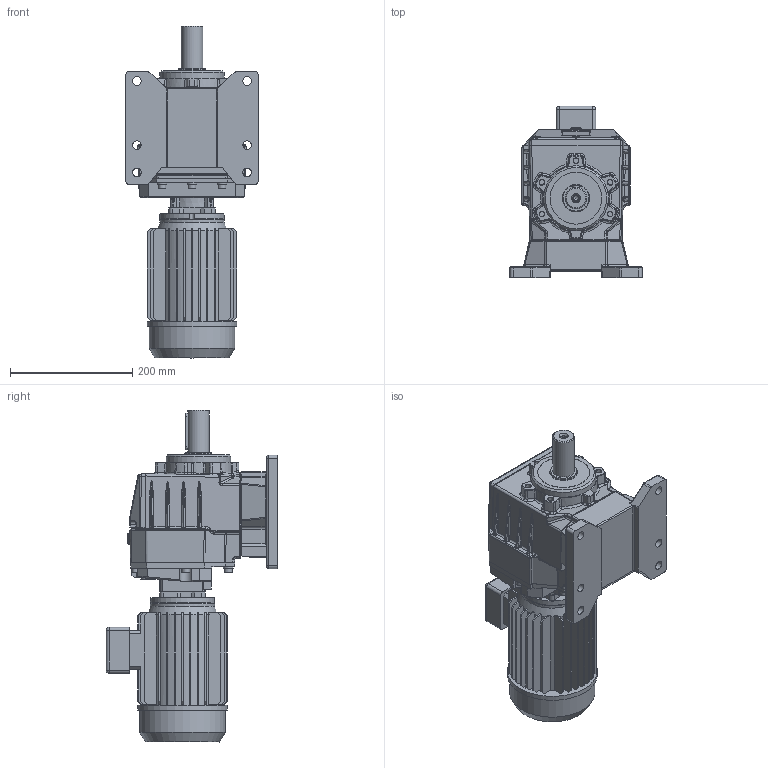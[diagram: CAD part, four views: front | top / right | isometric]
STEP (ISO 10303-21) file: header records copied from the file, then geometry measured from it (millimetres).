
FILE_DESCRIPTION( ( 'Unknown' ), '1' );
FILE_NAME( 'E:/services/configuratordownloads/customers/HYDROMEC/COASSIALI/download/18E92EBE5DDC0736F57D2A8D4DC48E/STEP/18E92EBE5DDC0736F57D2A8D4DC48E.3d.stp', 'Unknown', ( 'Unknown' ), ( 'Unknown' ), 'PSStep 10.1', 'Unknown', ' ' );
FILE_SCHEMA( ( 'AUTOMOTIVE_DESIGN { 1 0 10303 214 1 1 1 1 }' ) );
Length unit declared in the file: millimetre
Products named in the file (1): C618800
Bounding box: 216 x 281.05 x 543 mm (x, y, z)
Volume: 9418596 mm3; surface area: 599711.2 mm2
Topology: 1 solids, 30 shells, 1647 faces, 3997 edges, 2478 vertices
Faces by surface type: plane 846, cylinder 430, bspline 212, cone 75, torus 54, sphere 26, extrusion 4
Full cylindrical faces by diameter (mm): 4.2 x8, 6 x6, 6.5 x1, 6.647 x4, 7 x3, 7.175 x6, 8.376 x6, 8.5 x8, 10 x6, 10.106 x4, 10.5 x1, 11.3 x1, 11.445 x2, 12.75 x8, 13 x7, 13.5 x1, 14 x6, 18 x1, 19 x1, 22 x1, 35 x2, 45 x1, 47 x2, 70 x1, 85 x1, 105 x1, 106 x1, 115.261 x1, 140 x1, 147 x1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
Entity records: 72164 total; most frequent: CARTESIAN_POINT 22984, ORIENTED_EDGE 7472, DIRECTION 6945, EDGE_CURVE 3736, VERTEX_POINT 2401, AXIS2_PLACEMENT_3D 2377, VECTOR 2191, LINE 2187
